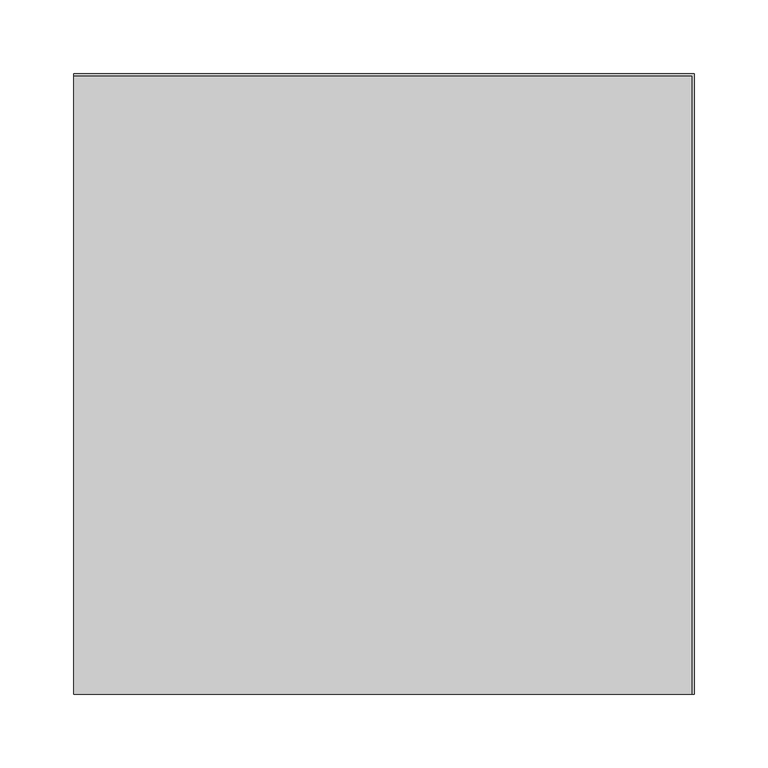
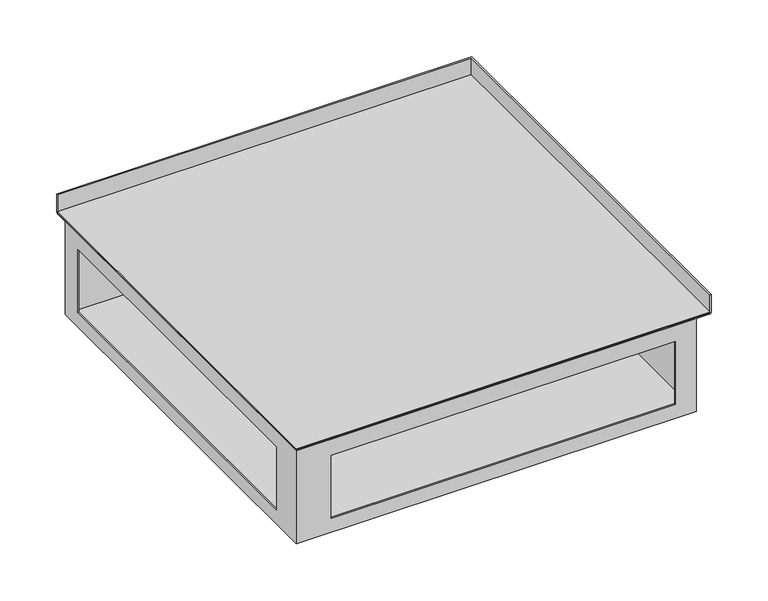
"""IFC4 building model written with IfcOpenShell, lengths in millimetres: proxy geometry, TECHNO_Угловой элемент_KVU : 420_120_90°."""

from ifc_helpers import new_model, si_unit, frame, origin, place, context, project, spatial, polyline, circle_curve, ellipse_curve, outline, extrude, source, transform, mapped, element, save
from ifc_brep_helpers import plane_surface, cylinder_surface, advanced_brep


def mechanical_equipment_7865cae7(model_context):
    return source(origin(), model_context, "Body", "SolidModel", [
        extrude(outline(polyline([(0.0, 208.8), (418.8, 208.8), (418.8, -210.0), (0.0, -210.0), (0.0, 208.8)])), frame((0.0, 0.0, -19.3), z_axis=(0.0, 0.0, 1.0), x_axis=(1.0, 0.0, 0.0)), (0.0, 0.0, 1.0), 1.2),
        advanced_brep(
        [(1.2, 194.0, -118.8), (1.2, -208.8, -118.8), (404.0, -208.8, -118.8), (404.0, 194.0, -118.8), (0.0, 195.2, -120.0), (405.2, 195.2, -120.0), (405.2, -210.0, -120.0), (0.0, -210.0, -120.0), (0.0, 195.2, -20.5), (0.0, -210.0, -20.5), (0.0, 194.0, -20.5), (0.0, 195.2, -19.3), (0.0, 208.8, -19.3), (0.0, 208.8, 0.0), (0.0, 210.0, 0.0), (0.0, 210.0, -19.3), (0.0, 208.8, -20.5), (0.0, -174.5, -37.5), (0.0, -174.5, -105.0), (0.0, 173.9, -105.0), (0.0, 173.9, -37.5), (405.2, -210.0, -20.5), (418.8, -210.0, -20.5), (420.0, -210.0, -19.3), (420.0, -210.0, 0.0), (418.8, -210.0, 0.0), (418.8, -210.0, -19.3), (405.2, -210.0, -19.3), (404.0, -210.0, -20.5), (35.5, -210.0, -105.0), (35.5, -210.0, -37.5), (383.9, -210.0, -37.5), (383.9, -210.0, -105.0), (405.2, 195.2, -20.5), (1.2, 195.2, -19.3), (1.2, -208.8, -19.3), (405.2, -208.8, -19.3), (418.8, 208.8, -19.3), (405.2, -194.0, -19.3), (16.0, -194.0, -19.3), (16.0, 195.2, -19.3), (405.2, 195.2, -19.3), (16.0, -194.0, -20.5), (16.0, 194.0, -20.5), (404.0, -194.0, -20.5), (404.0, -208.8, -20.5), (1.2, -208.8, -20.5), (1.2, 194.0, -20.5), (1.2, -174.5, -105.0), (1.2, -174.5, -37.5), (1.2, 173.9, -37.5), (1.2, 173.9, -105.0), (35.5, -208.8, -37.5), (35.5, -208.8, -105.0), (383.9, -208.8, -105.0), (383.9, -208.8, -37.5), (420.0, 210.0, -19.3), (420.0, 210.0, 0.0), (418.8, 208.8, 0.0), (418.8, 208.8, -20.5), (404.0, 194.0, -20.5)],
        [
            (0, 1),
            (1, 2),
            (2, 3),
            (3, 0),
            (4, 5),
            (5, 6),
            (6, 7),
            (7, 4),
            (8, 4),
            (7, 9),
            (9, 10),
            (10, 11, circle_curve(frame((0.0, 195.2, -20.5), z_axis=(-1.0, 0.0, 0.0), x_axis=(0.0, -1.0, 0.0)), 1.2)),
            (11, 12),
            (12, 13),
            (13, 14),
            (14, 15),
            (15, 16, circle_curve(frame((0.0, 208.8, -19.3), z_axis=(-1.0, 0.0, 0.0), x_axis=(0.0, -1.0, 0.0)), 1.2)),
            (16, 8),
            (17, 18),
            (18, 19),
            (19, 20),
            (20, 17),
            (6, 21),
            (21, 22),
            (22, 23, circle_curve(frame((418.8, -210.0, -19.3), z_axis=(0.0, -1.0, 0.0), x_axis=(-1.0, 0.0, 0.0)), 1.2)),
            (23, 24),
            (24, 25),
            (25, 26),
            (26, 27),
            (27, 28, circle_curve(frame((405.2, -210.0, -20.5), z_axis=(0.0, -1.0, 0.0), x_axis=(-1.0, 0.0, 0.0)), 1.2)),
            (28, 9),
            (29, 30),
            (30, 31),
            (31, 32),
            (32, 29),
            (8, 33),
            (33, 5),
            (33, 21),
            (34, 35),
            (35, 36),
            (36, 27),
            (26, 37),
            (37, 12),
            (11, 34),
            (38, 39),
            (39, 40),
            (40, 41),
            (41, 38),
            (39, 42),
            (42, 43),
            (43, 40, circle_curve(frame((16.0, 195.2, -20.5), z_axis=(-1.0, 0.0, 0.0), x_axis=(0.0, -1.0, 0.0)), 1.2)),
            (38, 44, circle_curve(frame((405.2, -194.0, -20.5), z_axis=(0.0, -1.0, 0.0), x_axis=(-1.0, 0.0, 0.0)), 1.2)),
            (44, 42),
            (44, 45),
            (45, 46),
            (46, 47),
            (47, 43),
            (46, 1),
            (0, 47),
            (48, 49),
            (49, 50),
            (50, 51),
            (51, 48),
            (45, 2),
            (52, 53),
            (53, 54),
            (54, 55),
            (55, 52),
            (34, 10, ellipse_curve(frame((1.2, 195.2, -20.5), z_axis=(0.7071067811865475, -0.7071067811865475, 0.0), x_axis=(0.7071067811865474, 0.7071067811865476, 0.0)), 1.6970563, 1.2)),
            (9, 35, ellipse_curve(frame((1.2, -208.8, -20.5), z_axis=(-0.7071067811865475, 0.7071067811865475, 0.0), x_axis=(0.7071067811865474, 0.7071067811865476, 0.0)), 1.6970563, 1.2)),
            (28, 36, ellipse_curve(frame((405.2, -208.8, -20.5), z_axis=(-0.7071067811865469, 0.7071067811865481, 0.0), x_axis=(-0.7071067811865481, -0.7071067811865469, 0.0)), 1.6970563, 1.2)),
            (23, 56),
            (56, 57),
            (57, 24),
            (57, 14),
            (13, 58),
            (58, 25),
            (58, 37),
            (16, 59),
            (59, 22),
            (59, 56, ellipse_curve(frame((418.8, 208.8, -19.3), z_axis=(0.7071067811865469, -0.7071067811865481, 0.0), x_axis=(-0.7071067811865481, -0.7071067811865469, 0.0)), 1.6970563, 1.2)),
            (56, 15),
            (41, 60, ellipse_curve(frame((405.2, 195.2, -20.5), z_axis=(0.7071067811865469, -0.7071067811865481, 0.0), x_axis=(-0.7071067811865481, -0.7071067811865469, 0.0)), 1.6970563, 1.2)),
            (60, 44),
            (60, 3),
            (43, 60),
            (48, 18),
            (17, 49),
            (51, 19),
            (50, 20),
            (52, 30),
            (29, 53),
            (55, 31),
            (54, 32),
        ],
        [
            plane_surface(frame((0.0, 194.0, -118.8), z_axis=(0.0, 0.0, 1.0), x_axis=(0.0, -1.0, 0.0))),
            plane_surface(frame((0.0, 194.0, -120.0), z_axis=(0.0, 0.0, -1.0), x_axis=(0.0, 1.0, 0.0))),
            plane_surface(frame((0.0, 194.0, -118.8), z_axis=(-1.0, 0.0, 0.0), x_axis=(0.0, 0.0, -1.0))),
            plane_surface(frame((0.0, -210.0, -118.8), z_axis=(0.0, -1.0, 0.0), x_axis=(0.0, 0.0, -1.0))),
            plane_surface(frame((0.0, 195.2, -120.0), z_axis=(0.0, 1.0, 0.0), x_axis=(0.0, 0.0, -1.0))),
            plane_surface(frame((405.2, -210.0, -120.0), z_axis=(1.0, 0.0, 0.0), x_axis=(0.0, 0.0, -1.0))),
            plane_surface(frame((1.2, 195.2, -19.3), z_axis=(0.0, 0.0, 1.0), x_axis=(0.0, -1.0, 0.0))),
            plane_surface(frame((16.0, 195.2, -19.3), z_axis=(1.0, 0.0, 0.0), x_axis=(0.0, -1.0, 0.0))),
            plane_surface(frame((16.0, -194.0, -19.3), z_axis=(0.0, 1.0, 0.0), x_axis=(1.0, 0.0, 0.0))),
            plane_surface(frame((16.0, 195.2, -20.5), z_axis=(0.0, 0.0, -1.0), x_axis=(0.0, -1.0, 0.0))),
            plane_surface(frame((1.2, 195.2, -20.5), z_axis=(1.0, 0.0, 0.0), x_axis=(0.0, -1.0, 0.0))),
            plane_surface(frame((1.2, -208.8, -20.5), z_axis=(0.0, 1.0, 0.0), x_axis=(1.0, 0.0, 0.0))),
            cylinder_surface(frame((1.2, 195.2, -20.5), z_axis=(0.0, 1.0, 0.0), x_axis=(-1.0, 0.0, 0.0)), 1.2),
            cylinder_surface(frame((0.0, -208.8, -20.5), z_axis=(-1.0, 0.0, 0.0), x_axis=(0.0, -1.0, 0.0)), 1.2),
            plane_surface(frame((420.0, -210.0, -19.3), z_axis=(1.0, 0.0, 0.0), x_axis=(0.0, 1.0, 0.0))),
            plane_surface(frame((420.0, -210.0, 0.0), z_axis=(0.0, 0.0, 1.0), x_axis=(0.0, 1.0, 0.0))),
            plane_surface(frame((418.8, -210.0, 0.0), z_axis=(-1.0, 0.0, 0.0), x_axis=(0.0, 1.0, 0.0))),
            plane_surface(frame((405.2, -210.0, -20.5), z_axis=(0.0, 0.0, -1.0), x_axis=(0.0, 1.0, 0.0))),
            cylinder_surface(frame((418.8, -210.0, -19.3), z_axis=(0.0, -1.0, 0.0), x_axis=(-1.0, 0.0, 0.0)), 1.2),
            plane_surface(frame((420.0, 210.0, -19.3), z_axis=(0.0, 1.0, 0.0), x_axis=(-1.0, 0.0, 0.0))),
            plane_surface(frame((418.8, 208.8, 0.0), z_axis=(0.0, -1.0, 0.0), x_axis=(-1.0, 0.0, 0.0))),
            cylinder_surface(frame((210.0, 208.8, -19.3), z_axis=(1.0, 0.0, 0.0), x_axis=(0.0, -1.0, 0.0)), 1.2),
            cylinder_surface(frame((405.2, -210.0, -20.5), z_axis=(0.0, -1.0, 0.0), x_axis=(-1.0, 0.0, 0.0)), 1.2),
            plane_surface(frame((404.0, -210.0, -20.5), z_axis=(-1.0, 0.0, 0.0), x_axis=(0.0, 1.0, 0.0))),
            cylinder_surface(frame((210.0, 195.2, -20.5), z_axis=(1.0, 0.0, 0.0), x_axis=(0.0, -1.0, 0.0)), 1.2),
            plane_surface(frame((404.0, 194.0, -20.5), z_axis=(0.0, -1.0, 0.0), x_axis=(-1.0, 0.0, 0.0))),
            plane_surface(frame((1.2, -174.5, -37.5), z_axis=(0.0, 1.0, 0.0), x_axis=(-1.0, 0.0, 0.0))),
            plane_surface(frame((1.2, -174.5, -105.0), z_axis=(0.0, 0.0, 1.0), x_axis=(-1.0, 0.0, 0.0))),
            plane_surface(frame((1.2, 173.9, -105.0), z_axis=(0.0, -1.0, 0.0), x_axis=(-1.0, 0.0, 0.0))),
            plane_surface(frame((1.2, 173.9, -37.5), z_axis=(0.0, 0.0, -1.0), x_axis=(-1.0, 0.0, 0.0))),
            plane_surface(frame((35.5, -208.8, -105.0), z_axis=(1.0, 0.0, 0.0), x_axis=(0.0, -1.0, 0.0))),
            plane_surface(frame((35.5, -208.8, -37.5), z_axis=(0.0, 0.0, -1.0), x_axis=(0.0, -1.0, 0.0))),
            plane_surface(frame((383.9, -208.8, -37.5), z_axis=(-1.0, 0.0, 0.0), x_axis=(0.0, -1.0, 0.0))),
            plane_surface(frame((383.9, -208.8, -105.0), z_axis=(0.0, 0.0, 1.0), x_axis=(0.0, -1.0, 0.0))),
        ],
        [
            (0, [[1, 2, 3, 4]]),
            (1, [[5, 6, 7, 8]]),
            (2, [[9, -8, 10, 11, 12, 13, 14, 15, 16, 17, 18], [19, 20, 21, 22]]),
            (3, [[23, 24, 25, 26, 27, 28, 29, 30, 31, -10, -7], [32, 33, 34, 35]]),
            (4, [[-9, 36, 37, -5]]),
            (5, [[-23, -6, -37, 38]]),
            (6, [[39, 40, 41, -29, 42, 43, -13, 44], [45, 46, 47, 48]]),
            (7, [[-46, 49, 50, 51]]),
            (8, [[-45, 52, 53, -49]]),
            (9, [[-50, -53, 54, 55, 56, 57]]),
            (10, [[58, -1, 59, -56], [60, 61, 62, 63]]),
            (11, [[-58, -55, 64, -2], [65, 66, 67, 68]]),
            (12, [[-39, 69, -11, 70]]),
            (13, [[-40, -70, -31, 71]]),
            (14, [[-26, 72, 73, 74]]),
            (15, [[-27, -74, 75, -15, 76, 77]]),
            (16, [[-28, -77, 78, -42]]),
            (17, [[-24, -38, -36, -18, 79, 80]]),
            (18, [[-25, -80, 81, -72]]),
            (19, [[-73, 82, -16, -75]]),
            (20, [[-76, -14, -43, -78]]),
            (21, [[-79, -17, -82, -81]]),
            (22, [[-30, -41, -71]]),
            (22, [[83, 84, -52, -48]]),
            (23, [[85, -3, -64, -54, -84]]),
            (24, [[-12, -69, -44]]),
            (24, [[-83, -47, -51, 86]]),
            (25, [[-85, -86, -57, -59, -4]]),
            (26, [[87, -19, 88, -60]]),
            (27, [[-87, -63, 89, -20]]),
            (28, [[-89, -62, 90, -21]]),
            (29, [[-88, -22, -90, -61]]),
            (30, [[91, -32, 92, -65]]),
            (31, [[-91, -68, 93, -33]]),
            (32, [[-93, -67, 94, -34]]),
            (33, [[-92, -35, -94, -66]]),
        ],
    ),
    ])


if __name__ == "__main__":
    model = new_model("IFC4")
    model_context = context("Model", 3, world=origin())
    ifc_project = project(units=[si_unit("LENGTHUNIT", "METRE", prefix="MILLI")], contexts=[model_context])
    site = spatial("IfcSite", under=ifc_project)
    building = spatial("IfcBuilding", under=site)
    placement = place(None, origin())
    mechanical_equipment_shape = mechanical_equipment_7865cae7(model_context)
    element("IfcBuildingElementProxy", 1, Name="TECHNO_Угловой элемент_KVU : 420_120_90°", ObjectType="TECHNO_Угловой элемент_KVU : 420_120_90°", at=placement, inside=building, context=model_context, shape_type="MappedRepresentation", body=[
        mapped(mechanical_equipment_shape, transform((0.0, 0.0, 0.0), x_axis=(1.0, 0.0, 0.0), y_axis=(0.0, 1.0, 0.0), z_axis=(0.0, 0.0, 1.0))),
    ])
    save(model, "model.ifc")
